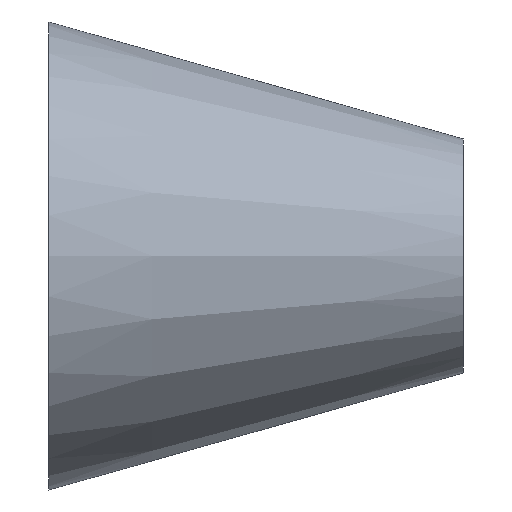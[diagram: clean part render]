
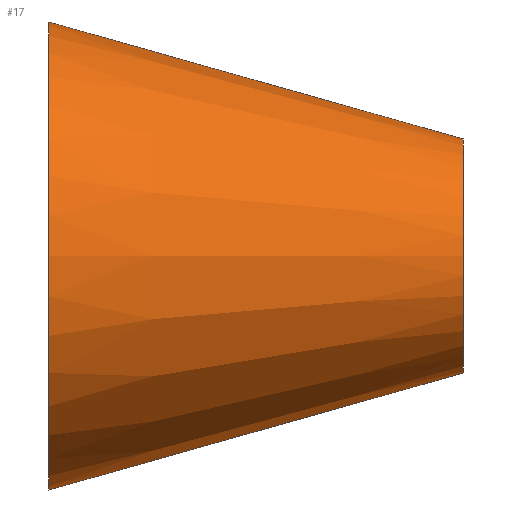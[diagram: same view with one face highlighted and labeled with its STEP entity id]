
A CAD part, front view. The second image highlights one B-rep face of the part: STEP entity #17.
In plain terms, the highlighted conical face has half-angle 15.762 degrees and reference radius 35 mm.
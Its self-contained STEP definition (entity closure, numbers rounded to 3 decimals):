
#17 = ADVANCED_FACE('',(#18),#31,.T.);
#18 = FACE_BOUND('',#19,.T.);
#19 = EDGE_LOOP('',(#20,#54,#74,#101));
#20 = ORIENTED_EDGE('',*,*,#21,.T.);
#21 = EDGE_CURVE('',#22,#22,#24,.T.);
#22 = VERTEX_POINT('',#23);
#23 = CARTESIAN_POINT('',(0.,35.,0.));
#24 = SURFACE_CURVE('',#25,(#30,#42),.PCURVE_S1.);
#25 = CIRCLE('',#26,35.);
#26 = AXIS2_PLACEMENT_3D('',#27,#28,#29);
#27 = CARTESIAN_POINT('',(0.,0.,0.));
#28 = DIRECTION('',(1.,0.,0.));
#29 = DIRECTION('',(0.,1.,0.));
#30 = PCURVE('',#31,#36);
#31 = CONICAL_SURFACE('',#32,35.,0.275);
#32 = AXIS2_PLACEMENT_3D('',#33,#34,#35);
#33 = CARTESIAN_POINT('',(0.,0.,0.));
#34 = DIRECTION('',(-1.,-0.,-0.));
#35 = DIRECTION('',(0.,1.,0.));
#36 = DEFINITIONAL_REPRESENTATION('',(#37),#41);
#37 = LINE('',#38,#39);
#38 = CARTESIAN_POINT('',(-0.,-0.));
#39 = VECTOR('',#40,1.);
#40 = DIRECTION('',(-1.,-0.));
#41 = ( GEOMETRIC_REPRESENTATION_CONTEXT(2) 
PARAMETRIC_REPRESENTATION_CONTEXT() REPRESENTATION_CONTEXT('2D SPACE',''
  ) );
#42 = PCURVE('',#43,#48);
#43 = PLANE('',#44);
#44 = AXIS2_PLACEMENT_3D('',#45,#46,#47);
#45 = CARTESIAN_POINT('',(0.,0.,0.));
#46 = DIRECTION('',(1.,0.,0.));
#47 = DIRECTION('',(0.,1.,0.));
#48 = DEFINITIONAL_REPRESENTATION('',(#49),#53);
#49 = CIRCLE('',#50,35.);
#50 = AXIS2_PLACEMENT_2D('',#51,#52);
#51 = CARTESIAN_POINT('',(0.,0.));
#52 = DIRECTION('',(1.,0.));
#53 = ( GEOMETRIC_REPRESENTATION_CONTEXT(2) 
PARAMETRIC_REPRESENTATION_CONTEXT() REPRESENTATION_CONTEXT('2D SPACE',''
  ) );
#54 = ORIENTED_EDGE('',*,*,#55,.T.);
#55 = EDGE_CURVE('',#22,#56,#58,.T.);
#56 = VERTEX_POINT('',#57);
#57 = CARTESIAN_POINT('',(62.,17.5,0.));
#58 = SEAM_CURVE('',#59,(#62,#68),.PCURVE_S1.);
#59 = B_SPLINE_CURVE_WITH_KNOTS('',1,(#60,#61),.UNSPECIFIED.,.F.,.F.,(2,
    2),(0.,1.),.PIECEWISE_BEZIER_KNOTS.);
#60 = CARTESIAN_POINT('',(0.,35.,0.));
#61 = CARTESIAN_POINT('',(62.,17.5,0.));
#62 = PCURVE('',#31,#63);
#63 = DEFINITIONAL_REPRESENTATION('',(#64),#67);
#64 = B_SPLINE_CURVE_WITH_KNOTS('',1,(#65,#66),.UNSPECIFIED.,.F.,.F.,(2,
    2),(0.,1.),.PIECEWISE_BEZIER_KNOTS.);
#65 = CARTESIAN_POINT('',(-6.283,0.));
#66 = CARTESIAN_POINT('',(-6.283,-62.));
#67 = ( GEOMETRIC_REPRESENTATION_CONTEXT(2) 
PARAMETRIC_REPRESENTATION_CONTEXT() REPRESENTATION_CONTEXT('2D SPACE',''
  ) );
#68 = PCURVE('',#31,#69);
#69 = DEFINITIONAL_REPRESENTATION('',(#70),#73);
#70 = B_SPLINE_CURVE_WITH_KNOTS('',1,(#71,#72),.UNSPECIFIED.,.F.,.F.,(2,
    2),(0.,1.),.PIECEWISE_BEZIER_KNOTS.);
#71 = CARTESIAN_POINT('',(0.,0.));
#72 = CARTESIAN_POINT('',(0.,-62.));
#73 = ( GEOMETRIC_REPRESENTATION_CONTEXT(2) 
PARAMETRIC_REPRESENTATION_CONTEXT() REPRESENTATION_CONTEXT('2D SPACE',''
  ) );
#74 = ORIENTED_EDGE('',*,*,#75,.F.);
#75 = EDGE_CURVE('',#56,#56,#76,.T.);
#76 = SURFACE_CURVE('',#77,(#82,#89),.PCURVE_S1.);
#77 = CIRCLE('',#78,17.5);
#78 = AXIS2_PLACEMENT_3D('',#79,#80,#81);
#79 = CARTESIAN_POINT('',(62.,0.,0.));
#80 = DIRECTION('',(1.,0.,0.));
#81 = DIRECTION('',(0.,1.,0.));
#82 = PCURVE('',#31,#83);
#83 = DEFINITIONAL_REPRESENTATION('',(#84),#88);
#84 = LINE('',#85,#86);
#85 = CARTESIAN_POINT('',(-0.,-62.));
#86 = VECTOR('',#87,1.);
#87 = DIRECTION('',(-1.,-0.));
#88 = ( GEOMETRIC_REPRESENTATION_CONTEXT(2) 
PARAMETRIC_REPRESENTATION_CONTEXT() REPRESENTATION_CONTEXT('2D SPACE',''
  ) );
#89 = PCURVE('',#90,#95);
#90 = PLANE('',#91);
#91 = AXIS2_PLACEMENT_3D('',#92,#93,#94);
#92 = CARTESIAN_POINT('',(62.,0.,0.));
#93 = DIRECTION('',(1.,0.,0.));
#94 = DIRECTION('',(0.,1.,0.));
#95 = DEFINITIONAL_REPRESENTATION('',(#96),#100);
#96 = CIRCLE('',#97,17.5);
#97 = AXIS2_PLACEMENT_2D('',#98,#99);
#98 = CARTESIAN_POINT('',(0.,0.));
#99 = DIRECTION('',(1.,0.));
#100 = ( GEOMETRIC_REPRESENTATION_CONTEXT(2) 
PARAMETRIC_REPRESENTATION_CONTEXT() REPRESENTATION_CONTEXT('2D SPACE',''
  ) );
#101 = ORIENTED_EDGE('',*,*,#55,.F.);
